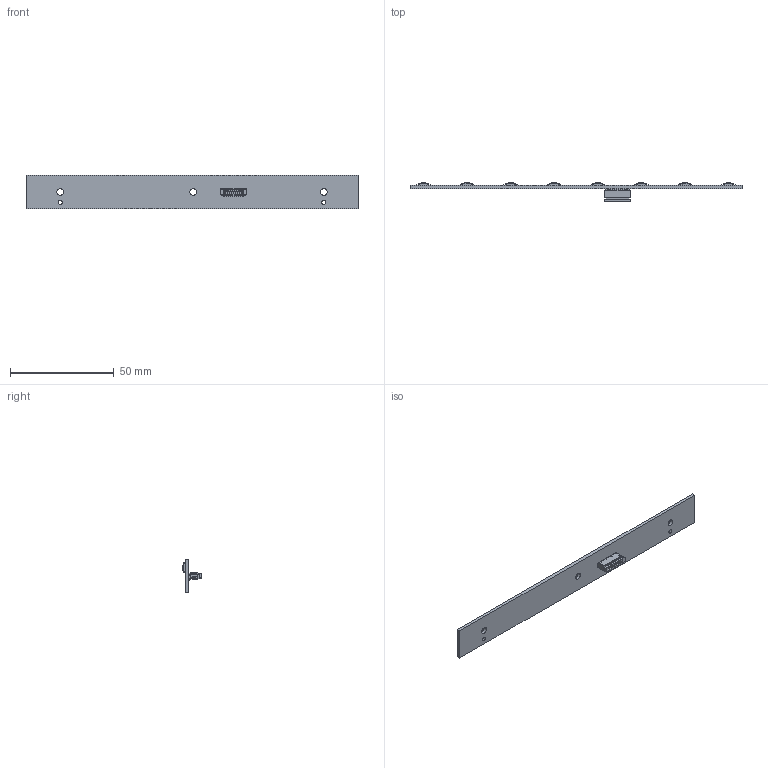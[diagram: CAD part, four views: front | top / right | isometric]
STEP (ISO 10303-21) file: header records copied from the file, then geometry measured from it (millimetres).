
FILE_DESCRIPTION((''),'2;1');
FILE_NAME('BUTTON_PCB_ASSY_ASM','2020-08-21T',('G6003023'),(''),'PRO/ENGINEER BY PARAMETRIC TECHNOLOGY CORPORATION, 2013150','PRO/ENGINEER BY PARAMETRIC TECHNOLOGY CORPORATION, 2013150','');
FILE_SCHEMA(('CONFIG_CONTROL_DESIGN'));
Length unit declared in the file: millimetre
Products named in the file (18): BUTTON_PCB; TACT_SWITCH; MSBR-13-001; MSBR-12-001; MSBR-11-001; MSBR-10-001; MSBR-9-001; MSBR-8-001; MSBR-7-001; MSBR-6-001; MSBR-5-001; MSBR-4-001; MSBR-3-001; MSBR-2-001; MSBR-1-001; HS6110E-10PIN_ASM; SH1_0MM-10P; BUTTON_PCB_ASSY_ASM
Assembly tree (24 placements, depth 3):
  BUTTON_PCB_ASSY_ASM
    BUTTON_PCB
    TACT_SWITCH  x8
    HS6110E-10PIN_ASM
      MSBR-13-001
      MSBR-12-001
      MSBR-11-001
      MSBR-10-001
      MSBR-9-001
      MSBR-8-001
      MSBR-7-001
      MSBR-6-001
      MSBR-5-001
      MSBR-4-001
      MSBR-3-001
      MSBR-2-001
      MSBR-1-001
    SH1_0MM-10P
Bounding box: 160 x 9.3 x 16 mm (x, y, z)
Volume: 4395.9 mm3; surface area: 7121.7 mm2
Topology: 23 solids, 23 shells, 1831 faces, 5179 edges, 3386 vertices
Faces by surface type: plane 1371, cylinder 380, bspline 48, sphere 32
Entity records: 47279 total; most frequent: CARTESIAN_POINT 8738, ORIENTED_EDGE 8202, DIRECTION 7665, EDGE_CURVE 4101, VECTOR 3457, LINE 3457, VERTEX_POINT 2700, AXIS2_PLACEMENT_3D 2104
